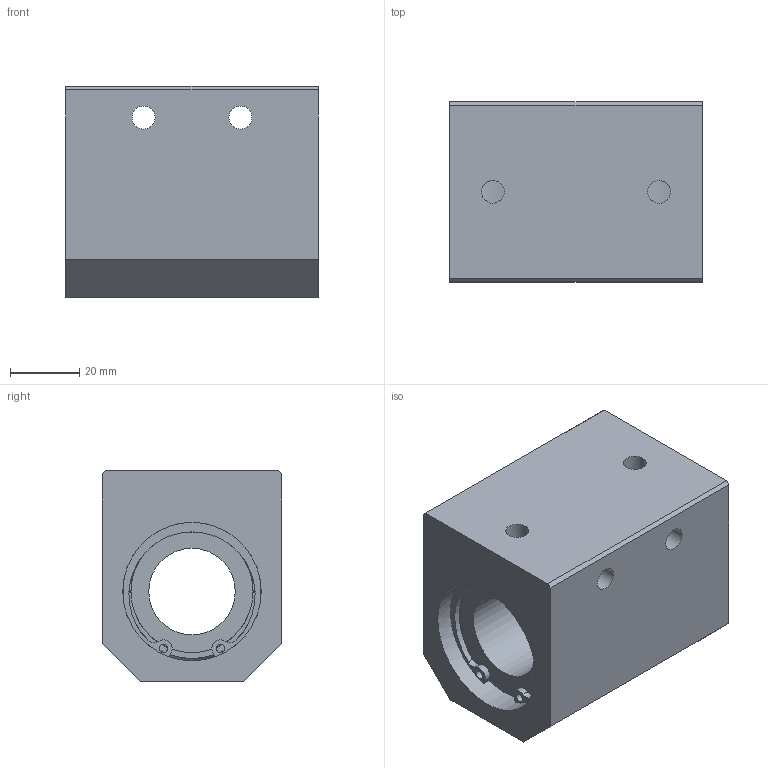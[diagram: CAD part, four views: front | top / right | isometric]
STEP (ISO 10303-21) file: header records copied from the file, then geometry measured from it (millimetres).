
FILE_DESCRIPTION((''),'2;1');
FILE_NAME('D:\製品 (図面)\カタログ用3D\リニアベアリング関連(改)\STEP形式\CH\CH25.stp','2010-01-25T09:34:51',('Tsuchiya'),(''),'Autodesk Inventor 10','Autodesk Inventor 10','');
FILE_SCHEMA(('AUTOMOTIVE_DESIGN { 1 0 10303 214 1 1 1 1 }'));
Length unit declared in the file: millimetre
Products named in the file (1): CH25
Bounding box: 73 x 52 x 61 mm (x, y, z)
Volume: 170011.8 mm3; surface area: 32358.4 mm2
Topology: 1 solids, 3 shells, 75 faces, 207 edges, 128 vertices
Faces by surface type: plane 33, bspline 22, cylinder 18, torus 2
Full cylindrical faces by diameter (mm): 2.5 x2, 25 x1, 35.3 x2, 38 x2, 40 x4
Entity records: 2538 total; most frequent: CARTESIAN_POINT 742, DIRECTION 388, ORIENTED_EDGE 336, AXIS2_PLACEMENT_3D 168, EDGE_CURVE 168, EDGE_LOOP 118, CIRCLE 114, VERTEX_POINT 112
